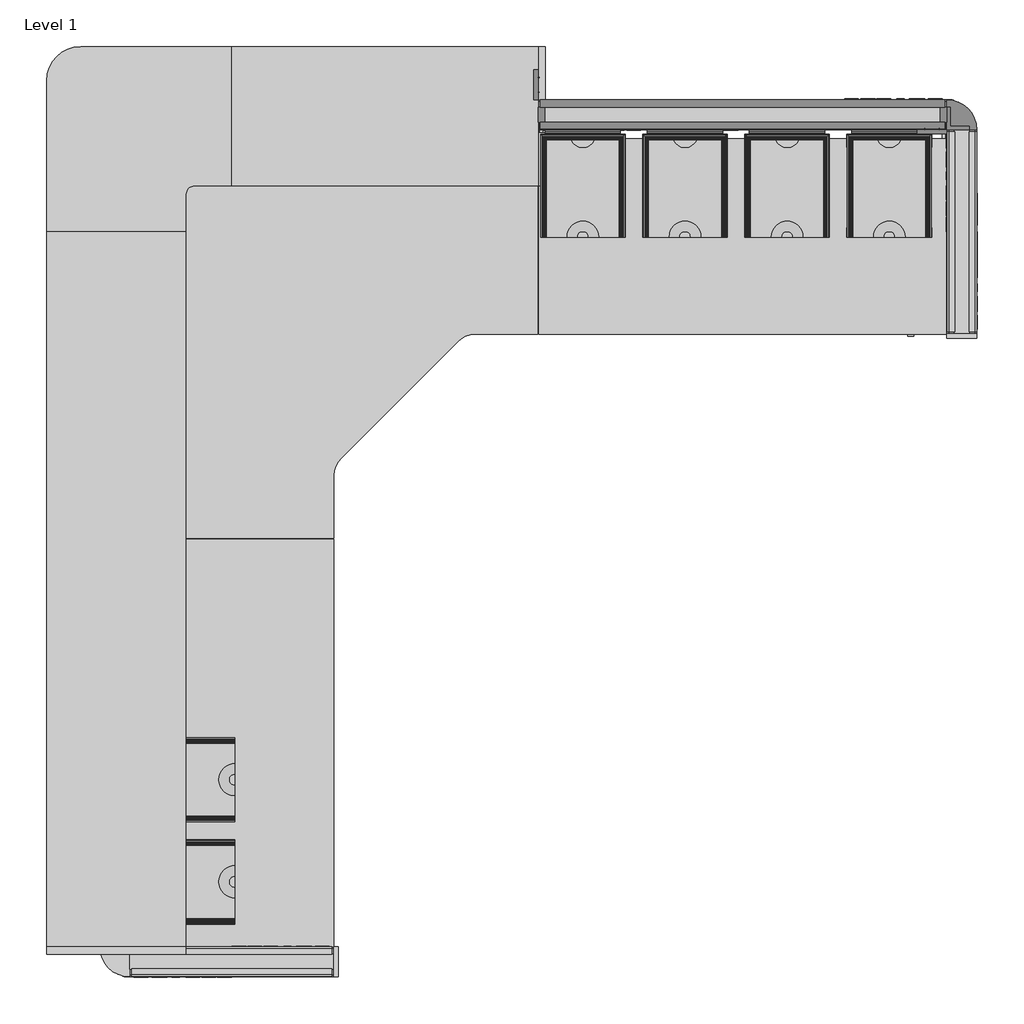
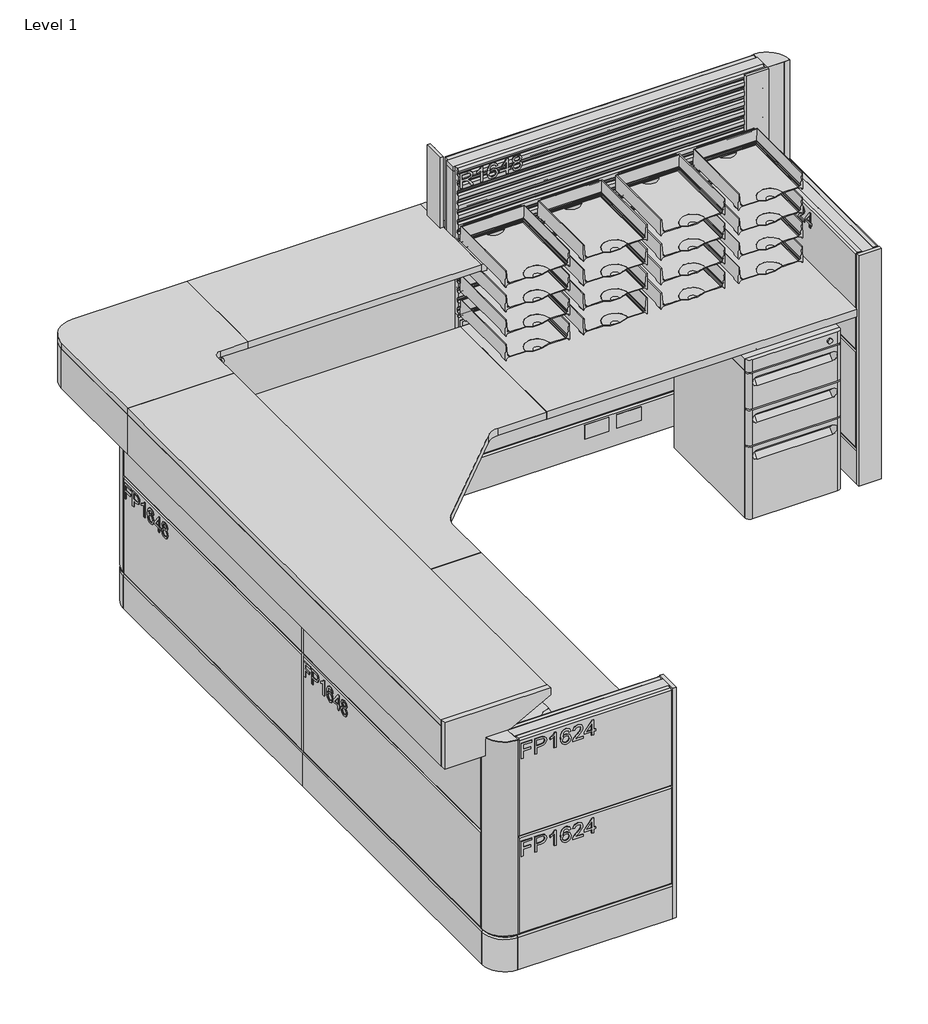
# One storey, incomplete: 82 furniture elements.
"""IFC4 building model written with IfcOpenShell, lengths in millimetres."""

from ifc_helpers import new_model, si_unit, origin, place, context, project, spatial, transform, mapped, element, save
from components import furniture_7da167ec, furniture_0245ad47, furniture_adfb5ce8, furniture_df6beef7, furniture_9d682085, furniture_7324295f, furniture_2651c101, furniture_8bbf410e, furniture_d1243616, furniture_9dcc6860, furniture_82e04d0f, furniture_e496f4a3, furniture_2b4b025d, furniture_4f5ec0d2, furniture_25a45a0c, furniture_1e165847, furniture_649fbbb6, furniture_7367badf, furniture_2b01d008, furniture_5f13d64d, furniture_d119ae5b, furniture_75c44140, furniture_a37e439a, furniture_f058e72c, furniture_24d_left_781ecdd2, furniture_24d_right_b8f5cfed, furniture_c74ffdfc, furniture_90_deg_19f469a9, furniture_90_deg_corner_ab4f0109, end_cap_54c5994d, lam_24d_48w_661e9c04, lam_24d_48w_cabdf88d, left_ebece1d7, right_d4cbb337

model = new_model("IFC4")

# Units and contexts
model_context = context("Model", 3, world=origin())
ifc_project = project(units=[si_unit("LENGTHUNIT", "METRE", prefix="MILLI")], contexts=[model_context])

# Site, building, storey
site = spatial("IfcSite", under=ifc_project)
building = spatial("IfcBuilding", under=site)
storey = spatial("IfcBuildingStorey", under=building, Name="Level 1", Elevation=0.0)

# Furniture
placement = place(None, origin())
furniture_shape = furniture_7da167ec(model_context)
element("IfcFurniture", 1, ObjectType="HermanMiller_Quadrant_G5110_B-PullFreestandingPedestal : 26-1/2\"H x 20\"D x 15\"W BBF", at=placement, inside=storey, context=model_context, shape_type="MappedRepresentation", body=[
    mapped(furniture_shape, transform((427.19498, -2212.0479, 0.0), x_axis=(0.0, 1.0, 0.0), y_axis=(-1.0, 0.0, 0.0), z_axis=(0.0, 0.0, 1.0))),
])
element("IfcFurniture", 2, ObjectType="HermanMiller_Quadrant_G5110_B-PullFreestandingPedestal : 26-1/2\"H x 20\"D x 15\"W BBF", at=placement, inside=storey, context=model_context, shape_type="MappedRepresentation", body=[
    mapped(furniture_shape, transform((2284.65888, -360.934, 0.0), x_axis=(1.0, 0.0, 0.0), y_axis=(0.0, 1.0, 0.0), z_axis=(0.0, 0.0, 1.0))),
])
furniture_2_shape = furniture_0245ad47(model_context)
element("IfcFurniture", 3, ObjectType="HermanMiller_Ethospace_E1420_FaceTile : Ptd 16\"H x 48\"W", at=placement, inside=storey, context=model_context, shape_type="MappedRepresentation", body=[
    mapped(furniture_2_shape, transform((76.2000061, -1828.8, 0.0), x_axis=(0.0, 1.0, 0.0), y_axis=(-1.0, 0.0, 0.0), z_axis=(0.0, 0.0, 1.0))),
])
element("IfcFurniture", 4, ObjectType="HermanMiller_Ethospace_E1420_FaceTile : Ptd 16\"H x 48\"W", at=placement, inside=storey, context=model_context, shape_type="MappedRepresentation", body=[
    mapped(furniture_2_shape, transform((12.6999939, -1828.8, 0.0), x_axis=(0.0, -1.0, 0.0), y_axis=(1.0, 0.0, 0.0), z_axis=(0.0, 0.0, 1.0))),
])
element("IfcFurniture", 5, ObjectType="HermanMiller_Ethospace_E1420_FaceTile : Ptd 16\"H x 48\"W", at=placement, inside=storey, context=model_context, shape_type="MappedRepresentation", body=[
    mapped(furniture_2_shape, transform((75.4049861, -609.6, 0.0), x_axis=(0.0, 1.0, 0.0), y_axis=(-1.0, 0.0, 0.0), z_axis=(0.0, 0.0, 1.0))),
])
element("IfcFurniture", 6, ObjectType="HermanMiller_Ethospace_E1420_FaceTile : Ptd 16\"H x 48\"W", at=placement, inside=storey, context=model_context, shape_type="MappedRepresentation", body=[
    mapped(furniture_2_shape, transform((12.6999939, -609.6, 0.0), x_axis=(0.0, -1.0, 0.0), y_axis=(1.0, 0.0, 0.0), z_axis=(0.0, 0.0, 1.0))),
])
element("IfcFurniture", 7, ObjectType="HermanMiller_Ethospace_E1420_FaceTile : Ptd 16\"H x 48\"W", at=placement, inside=storey, context=model_context, shape_type="MappedRepresentation", body=[
    mapped(furniture_2_shape, transform((698.5, 13.4950139, 0.0), x_axis=(1.0, 0.0, 0.0), y_axis=(0.0, 1.0, 0.0), z_axis=(0.0, 0.0, 1.0))),
])
element("IfcFurniture", 8, ObjectType="HermanMiller_Ethospace_E1420_FaceTile : Ptd 16\"H x 48\"W", at=placement, inside=storey, context=model_context, shape_type="MappedRepresentation", body=[
    mapped(furniture_2_shape, transform((698.5, 76.2000061, 0.0), x_axis=(-1.0, 0.0, 0.0), y_axis=(0.0, -1.0, 0.0), z_axis=(0.0, 0.0, 1.0))),
])
element("IfcFurniture", 9, ObjectType="HermanMiller_Ethospace_E1420_FaceTile : Ptd 16\"H x 48\"W", at=placement, inside=storey, context=model_context, shape_type="MappedRepresentation", body=[
    mapped(furniture_2_shape, transform((1917.7, 76.2000061, 0.0), x_axis=(-1.0, 0.0, 0.0), y_axis=(0.0, -1.0, 0.0), z_axis=(0.0, 0.0, 1.0))),
])
element("IfcFurniture", 10, ObjectType="HermanMiller_Ethospace_E1420_FaceTile : Ptd 16\"H x 48\"W", at=placement, inside=storey, context=model_context, shape_type="MappedRepresentation", body=[
    mapped(furniture_2_shape, transform((1917.7, 12.6999939, 0.0), x_axis=(1.0, 0.0, 0.0), y_axis=(0.0, 1.0, 0.0), z_axis=(0.0, 0.0, 1.0))),
])
furniture_3_shape = furniture_adfb5ce8(model_context)
element("IfcFurniture", 11, ObjectType="HermanMiller_Ethospace_E1420_FaceTile : Ptd 16\"H x 48\"W", at=placement, inside=storey, context=model_context, shape_type="MappedRepresentation", body=[
    mapped(furniture_3_shape, transform((75.4049861, -609.6, 0.0), x_axis=(0.0, 1.0, 0.0), y_axis=(-1.0, 0.0, 0.0), z_axis=(0.0, 0.0, 1.0))),
])
element("IfcFurniture", 12, ObjectType="HermanMiller_Ethospace_E1420_FaceTile : Ptd 16\"H x 48\"W", at=placement, inside=storey, context=model_context, shape_type="MappedRepresentation", body=[
    mapped(furniture_3_shape, transform((698.5, 13.4950139, 0.0), x_axis=(1.0, 0.0, 0.0), y_axis=(0.0, 1.0, 0.0), z_axis=(0.0, 0.0, 1.0))),
])
element("IfcFurniture", 13, ObjectType="HermanMiller_Ethospace_E1420_FaceTile : Ptd 16\"H x 48\"W", at=placement, inside=storey, context=model_context, shape_type="MappedRepresentation", body=[
    mapped(furniture_3_shape, transform((12.6999939, -1828.8, 0.0), x_axis=(0.0, -1.0, 0.0), y_axis=(1.0, 0.0, 0.0), z_axis=(0.0, 0.0, 1.0))),
])
element("IfcFurniture", 14, ObjectType="HermanMiller_Ethospace_E1420_FaceTile : Ptd 16\"H x 48\"W", at=placement, inside=storey, context=model_context, shape_type="MappedRepresentation", body=[
    mapped(furniture_3_shape, transform((12.6999939, -609.6, 0.0), x_axis=(0.0, -1.0, 0.0), y_axis=(1.0, 0.0, 0.0), z_axis=(0.0, 0.0, 1.0))),
])
element("IfcFurniture", 15, ObjectType="HermanMiller_Ethospace_E1420_FaceTile : Ptd 16\"H x 48\"W", at=placement, inside=storey, context=model_context, shape_type="MappedRepresentation", body=[
    mapped(furniture_3_shape, transform((698.5, 76.2000061, 0.0), x_axis=(-1.0, 0.0, 0.0), y_axis=(0.0, -1.0, 0.0), z_axis=(0.0, 0.0, 1.0))),
])
element("IfcFurniture", 16, ObjectType="HermanMiller_Ethospace_E1420_FaceTile : Ptd 16\"H x 48\"W", at=placement, inside=storey, context=model_context, shape_type="MappedRepresentation", body=[
    mapped(furniture_3_shape, transform((1917.7, 76.2000061, 0.0), x_axis=(-1.0, 0.0, 0.0), y_axis=(0.0, -1.0, 0.0), z_axis=(0.0, 0.0, 1.0))),
])
furniture_4_shape = furniture_df6beef7(model_context)
element("IfcFurniture", 17, ObjectType="HermanMiller_Ethospace_E2827_CounterTopSupport : 48\"W W/Light", at=placement, inside=storey, context=model_context, shape_type="MappedRepresentation", body=[
    mapped(furniture_4_shape, transform((57.14492, -1828.8, 0.0), x_axis=(0.0, 1.0, 0.0), y_axis=(-1.0, 0.0, 0.0), z_axis=(0.0, 0.0, 1.0))),
])
element("IfcFurniture", 18, ObjectType="HermanMiller_Ethospace_E2827_CounterTopSupport : 48\"W W/Light", at=placement, inside=storey, context=model_context, shape_type="MappedRepresentation", body=[
    mapped(furniture_4_shape, transform((698.5, 31.75254, 0.0), x_axis=(1.0, 0.0, 0.0), y_axis=(0.0, 1.0, 0.0), z_axis=(0.0, 0.0, 1.0))),
])
element("IfcFurniture", 19, ObjectType="HermanMiller_Ethospace_E2827_CounterTopSupport : 48\"W W/Light", at=placement, inside=storey, context=model_context, shape_type="MappedRepresentation", body=[
    mapped(furniture_4_shape, transform((57.14492, -609.6, 0.0), x_axis=(0.0, 1.0, 0.0), y_axis=(-1.0, 0.0, 0.0), z_axis=(0.0, 0.0, 1.0))),
])
furniture_5_shape = furniture_9d682085(model_context)
element("IfcFurniture", 20, ObjectType="HermanMiller_Ethospace_E1251_FinishedEndChangeOfHeight : Std Ptd 12\"H", at=placement, inside=storey, context=model_context, shape_type="MappedRepresentation", body=[
    mapped(furniture_5_shape, transform((1302.7293982, 127.5537944, 0.0), x_axis=(-1.0, 0.0, 0.0), y_axis=(0.0, -1.0, 0.0), z_axis=(0.0, 0.0, 1.0))),
])
furniture_6_shape = furniture_7324295f(model_context)
element("IfcFurniture", 21, ObjectType="HermanMiller_Ethospace_E2830_SqEdgeCounterTop : 7-1/2\"H x 16-3/8\"D x 36\"W", at=placement, inside=storey, context=model_context, shape_type="MappedRepresentation", body=[
    mapped(furniture_6_shape, transform((850.9, 39.69004, 0.0), x_axis=(1.0, 0.0, 0.0), y_axis=(0.0, 1.0, 0.0), z_axis=(0.0, 0.0, 1.0))),
])
furniture_7_shape = furniture_2651c101(model_context)
element("IfcFurniture", 22, ObjectType="HermanMiller_Ethospace_E2830_SqEdgeCounterTop : 7-1/2\"H x 16-3/8\"D x 84\"W", at=placement, inside=storey, context=model_context, shape_type="MappedRepresentation", body=[
    mapped(furniture_7_shape, transform((49.20742, -1371.6, 0.0), x_axis=(0.0, 1.0, 0.0), y_axis=(-1.0, 0.0, 0.0), z_axis=(0.0, 0.0, 1.0))),
])
furniture_8_shape = furniture_8bbf410e(model_context)
element("IfcFurniture", 23, ObjectType="HermanMiller_Ethospace_E1250_FinishedEnd : Std Ptd 38\"H", at=placement, inside=storey, context=model_context, shape_type="MappedRepresentation", body=[
    mapped(furniture_8_shape, transform((703.8706018, -2477.0537944, 0.0), x_axis=(1.0, 0.0, 0.0), y_axis=(0.0, 1.0, 0.0), z_axis=(0.0, 0.0, 1.0))),
])
element("IfcFurniture", 24, ObjectType="HermanMiller_Ethospace_E1250_FinishedEnd : Std Ptd 38\"H", at=placement, inside=storey, context=model_context, shape_type="MappedRepresentation", body=[
    mapped(furniture_8_shape, transform((2577.5462056, -614.9706018, 0.0), x_axis=(0.0, -1.0, 0.0), y_axis=(1.0, 0.0, 0.0), z_axis=(0.0, 0.0, 1.0))),
])
furniture_9_shape = furniture_d1243616(model_context)
element("IfcFurniture", 25, ObjectType="HermanMiller_Ethospace_E1420_FaceTile : Ptd 16\"H x 24\"W", at=placement, inside=storey, context=model_context, shape_type="MappedRepresentation", body=[
    mapped(furniture_9_shape, transform((393.7, -2513.8049861, 0.0), x_axis=(1.0, 0.0, 0.0), y_axis=(0.0, 1.0, 0.0), z_axis=(0.0, 0.0, 1.0))),
])
element("IfcFurniture", 26, ObjectType="HermanMiller_Ethospace_E1420_FaceTile : Ptd 16\"H x 24\"W", at=placement, inside=storey, context=model_context, shape_type="MappedRepresentation", body=[
    mapped(furniture_9_shape, transform((393.7, -2451.0999939, 0.0), x_axis=(-1.0, 0.0, 0.0), y_axis=(0.0, -1.0, 0.0), z_axis=(0.0, 0.0, 1.0))),
])
element("IfcFurniture", 27, ObjectType="HermanMiller_Ethospace_E1420_FaceTile : Ptd 16\"H x 24\"W", at=placement, inside=storey, context=model_context, shape_type="MappedRepresentation", body=[
    mapped(furniture_9_shape, transform((2540.7924739, -304.8, 0.0), x_axis=(0.0, -1.0, 0.0), y_axis=(1.0, 0.0, 0.0), z_axis=(0.0, 0.0, 1.0))),
])
element("IfcFurniture", 28, ObjectType="HermanMiller_Ethospace_E1420_FaceTile : Ptd 16\"H x 24\"W", at=placement, inside=storey, context=model_context, shape_type="MappedRepresentation", body=[
    mapped(furniture_9_shape, transform((2603.5000061, -304.8, 0.0), x_axis=(0.0, 1.0, 0.0), y_axis=(-1.0, 0.0, 0.0), z_axis=(0.0, 0.0, 1.0))),
])
furniture_10_shape = furniture_9dcc6860(model_context)
element("IfcFurniture", 29, ObjectType="HermanMiller_Ethospace_E1420_FaceTile : Ptd 16\"H x 24\"W", at=placement, inside=storey, context=model_context, shape_type="MappedRepresentation", body=[
    mapped(furniture_10_shape, transform((393.7, -2513.8049861, 0.0), x_axis=(1.0, 0.0, 0.0), y_axis=(0.0, 1.0, 0.0), z_axis=(0.0, 0.0, 1.0))),
])
element("IfcFurniture", 30, ObjectType="HermanMiller_Ethospace_E1420_FaceTile : Ptd 16\"H x 24\"W", at=placement, inside=storey, context=model_context, shape_type="MappedRepresentation", body=[
    mapped(furniture_10_shape, transform((393.7, -2451.0999939, 0.0), x_axis=(-1.0, 0.0, 0.0), y_axis=(0.0, -1.0, 0.0), z_axis=(0.0, 0.0, 1.0))),
])
element("IfcFurniture", 31, ObjectType="HermanMiller_Ethospace_E1420_FaceTile : Ptd 16\"H x 24\"W", at=placement, inside=storey, context=model_context, shape_type="MappedRepresentation", body=[
    mapped(furniture_10_shape, transform((2540.7924739, -304.8, 0.0), x_axis=(0.0, -1.0, 0.0), y_axis=(1.0, 0.0, 0.0), z_axis=(0.0, 0.0, 1.0))),
])
element("IfcFurniture", 32, ObjectType="HermanMiller_Ethospace_E1420_FaceTile : Ptd 16\"H x 24\"W", at=placement, inside=storey, context=model_context, shape_type="MappedRepresentation", body=[
    mapped(furniture_10_shape, transform((2603.5000061, -304.8, 0.0), x_axis=(0.0, 1.0, 0.0), y_axis=(-1.0, 0.0, 0.0), z_axis=(0.0, 0.0, 1.0))),
])
furniture_11_shape = furniture_82e04d0f(model_context)
element("IfcFurniture", 33, ObjectType="HermanMiller_Ethospace_E1109_Frame : 38\"H x 24\"W-H", at=placement, inside=storey, context=model_context, shape_type="MappedRepresentation", body=[
    mapped(furniture_11_shape, transform((393.7, -2482.85, 0.0), x_axis=(-1.0, 0.0, 0.0), y_axis=(0.0, -1.0, 0.0), z_axis=(0.0, 0.0, 1.0))),
])
element("IfcFurniture", 34, ObjectType="HermanMiller_Ethospace_E1109_Frame : 38\"H x 24\"W-H", at=placement, inside=storey, context=model_context, shape_type="MappedRepresentation", body=[
    mapped(furniture_11_shape, transform((2571.75, -304.8, 0.0), x_axis=(0.0, 1.0, 0.0), y_axis=(-1.0, 0.0, 0.0), z_axis=(0.0, 0.0, 1.0))),
])
furniture_12_shape = furniture_e496f4a3(model_context)
element("IfcFurniture", 35, ObjectType="HermanMiller_Ethospace_E1220_90DegreeConnector : Vnyl 38\"H 2-Way Rds-N", at=placement, inside=storey, context=model_context, shape_type="MappedRepresentation", body=[
    mapped(furniture_12_shape, transform((69.8449219, -2474.6847899, 0.0), x_axis=(-1.0, 0.0, 0.0), y_axis=(0.0, -1.0, 0.0), z_axis=(0.0, 0.0, 1.0))),
])
element("IfcFurniture", 36, ObjectType="HermanMiller_Ethospace_E1220_90DegreeConnector : Vnyl 38\"H 2-Way Rds-N", at=placement, inside=storey, context=model_context, shape_type="MappedRepresentation", body=[
    mapped(furniture_12_shape, transform((52.6152101, 19.0499981, 0.0), x_axis=(0.0, 1.0, 0.0), y_axis=(-1.0, 0.0, 0.0), z_axis=(0.0, 0.0, 1.0))),
])
furniture_13_shape = furniture_2b4b025d(model_context)
element("IfcFurniture", 37, ObjectType="HermanMiller_Ethospace_E1109_Frame : 38\"H x 48\"W-H", at=placement, inside=storey, context=model_context, shape_type="MappedRepresentation", body=[
    mapped(furniture_13_shape, transform((44.44492, -609.6, 0.0), x_axis=(0.0, 1.0, 0.0), y_axis=(-1.0, 0.0, 0.0), z_axis=(0.0, 0.0, 1.0))),
])
element("IfcFurniture", 38, ObjectType="HermanMiller_Ethospace_E1109_Frame : 38\"H x 48\"W-H", at=placement, inside=storey, context=model_context, shape_type="MappedRepresentation", body=[
    mapped(furniture_13_shape, transform((44.44492, -1828.8, 0.0), x_axis=(0.0, 1.0, 0.0), y_axis=(-1.0, 0.0, 0.0), z_axis=(0.0, 0.0, 1.0))),
])
element("IfcFurniture", 39, ObjectType="HermanMiller_Ethospace_E1109_Frame : 38\"H x 48\"W-H", at=placement, inside=storey, context=model_context, shape_type="MappedRepresentation", body=[
    mapped(furniture_13_shape, transform((698.5, 44.45254, 0.0), x_axis=(1.0, 0.0, 0.0), y_axis=(0.0, 1.0, 0.0), z_axis=(0.0, 0.0, 1.0))),
])
furniture_14_shape = furniture_4f5ec0d2(model_context)
element("IfcFurniture", 40, ObjectType="HermanMiller_Ethospace_E1420_FaceTile : Ptd 08\"H x 48\"W", at=placement, inside=storey, context=model_context, shape_type="MappedRepresentation", body=[
    mapped(furniture_14_shape, transform((76.2000061, -1828.8, 0.0), x_axis=(0.0, 1.0, 0.0), y_axis=(-1.0, 0.0, 0.0), z_axis=(0.0, 0.0, 1.0))),
])
element("IfcFurniture", 41, ObjectType="HermanMiller_Ethospace_E1420_FaceTile : Ptd 08\"H x 48\"W", at=placement, inside=storey, context=model_context, shape_type="MappedRepresentation", body=[
    mapped(furniture_14_shape, transform((1917.7, 12.6999939, 0.0), x_axis=(1.0, 0.0, 0.0), y_axis=(0.0, 1.0, 0.0), z_axis=(0.0, 0.0, 1.0))),
])
furniture_15_shape = furniture_25a45a0c(model_context)
element("IfcFurniture", 42, ObjectType="HermanMiller_Ethospace_E1425_RailTile : 08\"H x 48\"W", at=placement, inside=storey, context=model_context, shape_type="MappedRepresentation", body=[
    mapped(furniture_15_shape, transform((66.675, -1828.8, 0.0), x_axis=(0.0, 1.0, 0.0), y_axis=(-1.0, 0.0, 0.0), z_axis=(0.0, 0.0, 1.0))),
])
element("IfcFurniture", 43, ObjectType="HermanMiller_Ethospace_E1425_RailTile : 08\"H x 48\"W", at=placement, inside=storey, context=model_context, shape_type="MappedRepresentation", body=[
    mapped(furniture_15_shape, transform((1917.7, 22.225, 0.0), x_axis=(1.0, 0.0, 0.0), y_axis=(0.0, 1.0, 0.0), z_axis=(0.0, 0.0, 1.0))),
])
furniture_16_shape = furniture_1e165847(model_context)
element("IfcFurniture", 44, ObjectType="HermanMiller_Ethospace_E1420_FaceTile : Ptd 16\"H x 48\"W", at=placement, inside=storey, context=model_context, shape_type="MappedRepresentation", body=[
    mapped(furniture_16_shape, transform((1917.7, 76.2000061, 0.0), x_axis=(-1.0, 0.0, 0.0), y_axis=(0.0, -1.0, 0.0), z_axis=(0.0, 0.0, 1.0))),
])
furniture_17_shape = furniture_649fbbb6(model_context)
element("IfcFurniture", 45, ObjectType="HermanMiller_Ethospace_E1220_90DegreeConnector : Vnyl 54\"H 2-Way Rds-N", at=placement, inside=storey, context=model_context, shape_type="MappedRepresentation", body=[
    mapped(furniture_17_shape, transform((2546.3499981, 36.2847899, 0.0), x_axis=(1.0, 0.0, 0.0), y_axis=(0.0, 1.0, 0.0), z_axis=(0.0, 0.0, 1.0))),
])
furniture_18_shape = furniture_7367badf(model_context)
element("IfcFurniture", 46, ObjectType="HermanMiller_Ethospace_E1251_FinishedEndChangeOfHeight : Std Ptd 16\"H", at=placement, inside=storey, context=model_context, shape_type="MappedRepresentation", body=[
    mapped(furniture_18_shape, transform((2488.6436656, -5.3706018, 0.0), x_axis=(0.0, -1.0, 0.0), y_axis=(1.0, 0.0, 0.0), z_axis=(0.0, 0.0, 1.0))),
])
furniture_19_shape = furniture_2b01d008(model_context)
element("IfcFurniture", 47, ObjectType="HermanMiller_Ethospace_E1425_RailTile : 16\"H x 48\"W", at=placement, inside=storey, context=model_context, shape_type="MappedRepresentation", body=[
    mapped(furniture_19_shape, transform((1917.7, 22.225, 0.0), x_axis=(1.0, 0.0, 0.0), y_axis=(0.0, 1.0, 0.0), z_axis=(0.0, 0.0, 1.0))),
])
furniture_20_shape = furniture_5f13d64d(model_context)
element("IfcFurniture", 48, ObjectType="HermanMiller_Ethospace_E1109_Frame : 54\"H x 48\"W-H", at=placement, inside=storey, context=model_context, shape_type="MappedRepresentation", body=[
    mapped(furniture_20_shape, transform((1917.7, 44.45, 0.0), x_axis=(1.0, 0.0, 0.0), y_axis=(0.0, 1.0, 0.0), z_axis=(0.0, 0.0, 1.0))),
])
furniture_21_shape = furniture_d119ae5b(model_context)
element("IfcFurniture", 49, ObjectType="HermanMiller_ThrivePortfolio_Y7216_PaperTray : 3\"H x 12\"D x 10\"W", at=placement, inside=storey, context=model_context, shape_type="MappedRepresentation", body=[
    mapped(furniture_21_shape, transform((248.95048, -1939.671, 0.0), x_axis=(0.0, 1.0, 0.0), y_axis=(-1.0, 0.0, 0.0), z_axis=(0.0, 0.0, 1.0))),
])
element("IfcFurniture", 50, ObjectType="HermanMiller_ThrivePortfolio_Y7216_PaperTray : 3\"H x 12\"D x 10\"W", at=placement, inside=storey, context=model_context, shape_type="MappedRepresentation", body=[
    mapped(furniture_21_shape, transform((248.95048, -2244.471, 0.0), x_axis=(0.0, 1.0, 0.0), y_axis=(-1.0, 0.0, 0.0), z_axis=(0.0, 0.0, 1.0))),
])
element("IfcFurniture", 51, ObjectType="HermanMiller_ThrivePortfolio_Y7216_PaperTray : 3\"H x 12\"D x 10\"W", at=placement, inside=storey, context=model_context, shape_type="MappedRepresentation", body=[
    mapped(furniture_21_shape, transform((2050.64868, -166.99992, 0.0), x_axis=(1.0, 0.0, 0.0), y_axis=(0.0, 1.0, 0.0), z_axis=(0.0, 0.0, 1.0))),
])
element("IfcFurniture", 52, ObjectType="HermanMiller_ThrivePortfolio_Y7216_PaperTray : 3\"H x 12\"D x 10\"W", at=placement, inside=storey, context=model_context, shape_type="MappedRepresentation", body=[
    mapped(furniture_21_shape, transform((2355.44868, -166.99992, 0.0), x_axis=(1.0, 0.0, 0.0), y_axis=(0.0, 1.0, 0.0), z_axis=(0.0, 0.0, 1.0))),
])
element("IfcFurniture", 53, ObjectType="HermanMiller_ThrivePortfolio_Y7216_PaperTray : 3\"H x 12\"D x 10\"W", at=placement, inside=storey, context=model_context, shape_type="MappedRepresentation", body=[
    mapped(furniture_21_shape, transform((1441.04868, -166.99992, 0.0), x_axis=(1.0, 0.0, 0.0), y_axis=(0.0, 1.0, 0.0), z_axis=(0.0, 0.0, 1.0))),
])
element("IfcFurniture", 54, ObjectType="HermanMiller_ThrivePortfolio_Y7216_PaperTray : 3\"H x 12\"D x 10\"W", at=placement, inside=storey, context=model_context, shape_type="MappedRepresentation", body=[
    mapped(furniture_21_shape, transform((1745.84868, -166.99992, 0.0), x_axis=(1.0, 0.0, 0.0), y_axis=(0.0, 1.0, 0.0), z_axis=(0.0, 0.0, 1.0))),
])
furniture_22_shape = furniture_75c44140(model_context)
element("IfcFurniture", 55, ObjectType="HermanMiller_ThrivePortfolio_Y7216_PaperTray : 3\"H x 12\"D x 10\"W", at=placement, inside=storey, context=model_context, shape_type="MappedRepresentation", body=[
    mapped(furniture_22_shape, transform((2050.64868, -166.99992, 0.0), x_axis=(1.0, 0.0, 0.0), y_axis=(0.0, 1.0, 0.0), z_axis=(0.0, 0.0, 1.0))),
])
element("IfcFurniture", 56, ObjectType="HermanMiller_ThrivePortfolio_Y7216_PaperTray : 3\"H x 12\"D x 10\"W", at=placement, inside=storey, context=model_context, shape_type="MappedRepresentation", body=[
    mapped(furniture_22_shape, transform((2355.44868, -166.99992, 0.0), x_axis=(1.0, 0.0, 0.0), y_axis=(0.0, 1.0, 0.0), z_axis=(0.0, 0.0, 1.0))),
])
element("IfcFurniture", 57, ObjectType="HermanMiller_ThrivePortfolio_Y7216_PaperTray : 3\"H x 12\"D x 10\"W", at=placement, inside=storey, context=model_context, shape_type="MappedRepresentation", body=[
    mapped(furniture_22_shape, transform((1441.04868, -166.99992, 0.0), x_axis=(1.0, 0.0, 0.0), y_axis=(0.0, 1.0, 0.0), z_axis=(0.0, 0.0, 1.0))),
])
element("IfcFurniture", 58, ObjectType="HermanMiller_ThrivePortfolio_Y7216_PaperTray : 3\"H x 12\"D x 10\"W", at=placement, inside=storey, context=model_context, shape_type="MappedRepresentation", body=[
    mapped(furniture_22_shape, transform((1745.84868, -166.99992, 0.0), x_axis=(1.0, 0.0, 0.0), y_axis=(0.0, 1.0, 0.0), z_axis=(0.0, 0.0, 1.0))),
])
furniture_23_shape = furniture_a37e439a(model_context)
element("IfcFurniture", 59, ObjectType="HermanMiller_ThrivePortfolio_Y7216_PaperTray : 3\"H x 12\"D x 10\"W", at=placement, inside=storey, context=model_context, shape_type="MappedRepresentation", body=[
    mapped(furniture_23_shape, transform((2050.64868, -166.99992, 0.0), x_axis=(1.0, 0.0, 0.0), y_axis=(0.0, 1.0, 0.0), z_axis=(0.0, 0.0, 1.0))),
])
element("IfcFurniture", 60, ObjectType="HermanMiller_ThrivePortfolio_Y7216_PaperTray : 3\"H x 12\"D x 10\"W", at=placement, inside=storey, context=model_context, shape_type="MappedRepresentation", body=[
    mapped(furniture_23_shape, transform((2355.44868, -166.99992, 0.0), x_axis=(1.0, 0.0, 0.0), y_axis=(0.0, 1.0, 0.0), z_axis=(0.0, 0.0, 1.0))),
])
element("IfcFurniture", 61, ObjectType="HermanMiller_ThrivePortfolio_Y7216_PaperTray : 3\"H x 12\"D x 10\"W", at=placement, inside=storey, context=model_context, shape_type="MappedRepresentation", body=[
    mapped(furniture_23_shape, transform((1441.04868, -166.99992, 0.0), x_axis=(1.0, 0.0, 0.0), y_axis=(0.0, 1.0, 0.0), z_axis=(0.0, 0.0, 1.0))),
])
element("IfcFurniture", 62, ObjectType="HermanMiller_ThrivePortfolio_Y7216_PaperTray : 3\"H x 12\"D x 10\"W", at=placement, inside=storey, context=model_context, shape_type="MappedRepresentation", body=[
    mapped(furniture_23_shape, transform((1745.84868, -166.99992, 0.0), x_axis=(1.0, 0.0, 0.0), y_axis=(0.0, 1.0, 0.0), z_axis=(0.0, 0.0, 1.0))),
])
furniture_24_shape = furniture_f058e72c(model_context)
element("IfcFurniture", 63, ObjectType="HermanMiller_ThrivePortfolio_Y7216_PaperTray : 3\"H x 12\"D x 10\"W", at=placement, inside=storey, context=model_context, shape_type="MappedRepresentation", body=[
    mapped(furniture_24_shape, transform((2050.64868, -166.99992, 0.0), x_axis=(1.0, 0.0, 0.0), y_axis=(0.0, 1.0, 0.0), z_axis=(0.0, 0.0, 1.0))),
])
element("IfcFurniture", 64, ObjectType="HermanMiller_ThrivePortfolio_Y7216_PaperTray : 3\"H x 12\"D x 10\"W", at=placement, inside=storey, context=model_context, shape_type="MappedRepresentation", body=[
    mapped(furniture_24_shape, transform((2355.44868, -166.99992, 0.0), x_axis=(1.0, 0.0, 0.0), y_axis=(0.0, 1.0, 0.0), z_axis=(0.0, 0.0, 1.0))),
])
element("IfcFurniture", 65, ObjectType="HermanMiller_ThrivePortfolio_Y7216_PaperTray : 3\"H x 12\"D x 10\"W", at=placement, inside=storey, context=model_context, shape_type="MappedRepresentation", body=[
    mapped(furniture_24_shape, transform((1441.04868, -166.99992, 0.0), x_axis=(1.0, 0.0, 0.0), y_axis=(0.0, 1.0, 0.0), z_axis=(0.0, 0.0, 1.0))),
])
element("IfcFurniture", 66, ObjectType="HermanMiller_ThrivePortfolio_Y7216_PaperTray : 3\"H x 12\"D x 10\"W", at=placement, inside=storey, context=model_context, shape_type="MappedRepresentation", body=[
    mapped(furniture_24_shape, transform((1745.84868, -166.99992, 0.0), x_axis=(1.0, 0.0, 0.0), y_axis=(0.0, 1.0, 0.0), z_axis=(0.0, 0.0, 1.0))),
])
furniture_24d_left_shape = furniture_24d_left_781ecdd2(model_context)
element("IfcFurniture", 67, ObjectType="HermanMiller_Ethospace_E2393_WorkSurfaceSupport : 24D Left", at=placement, inside=storey, context=model_context, shape_type="MappedRepresentation", body=[
    mapped(furniture_24d_left_shape, transform((320.675, -1219.2635, 0.0), x_axis=(0.0, 1.0, 0.0), y_axis=(-1.0, 0.0, 0.0), z_axis=(0.0, 0.0, 1.0))),
])
element("IfcFurniture", 68, ObjectType="HermanMiller_Ethospace_E2393_WorkSurfaceSupport : 24D Left", at=placement, inside=storey, context=model_context, shape_type="MappedRepresentation", body=[
    mapped(furniture_24d_left_shape, transform((320.675, -2438.4635, 0.0), x_axis=(0.0, 1.0, 0.0), y_axis=(-1.0, 0.0, 0.0), z_axis=(0.0, 0.0, 1.0))),
])
element("IfcFurniture", 69, ObjectType="HermanMiller_Ethospace_E2393_WorkSurfaceSupport : 24D Left", at=placement, inside=storey, context=model_context, shape_type="MappedRepresentation", body=[
    mapped(furniture_24d_left_shape, transform((1309.624, -233.3625, 0.0), x_axis=(1.0, 0.0, 0.0), y_axis=(0.0, 1.0, 0.0), z_axis=(0.0, 0.0, 1.0))),
])
furniture_24d_right_shape = furniture_24d_right_b8f5cfed(model_context)
element("IfcFurniture", 70, ObjectType="HermanMiller_Ethospace_E2393_WorkSurfaceSupport : 24D Right", at=placement, inside=storey, context=model_context, shape_type="MappedRepresentation", body=[
    mapped(furniture_24d_right_shape, transform((1306.576, -233.3625, 0.0), x_axis=(1.0, 0.0, 0.0), y_axis=(0.0, 1.0, 0.0), z_axis=(0.0, 0.0, 1.0))),
])
element("IfcFurniture", 71, ObjectType="HermanMiller_Ethospace_E2393_WorkSurfaceSupport : 24D Right", at=placement, inside=storey, context=model_context, shape_type="MappedRepresentation", body=[
    mapped(furniture_24d_right_shape, transform((320.675, -1222.3115, 0.0), x_axis=(0.0, 1.0, 0.0), y_axis=(-1.0, 0.0, 0.0), z_axis=(0.0, 0.0, 1.0))),
])
element("IfcFurniture", 72, ObjectType="HermanMiller_Ethospace_E2393_WorkSurfaceSupport : 24D Right", at=placement, inside=storey, context=model_context, shape_type="MappedRepresentation", body=[
    mapped(furniture_24d_right_shape, transform((2525.776, -233.3625, 0.0), x_axis=(1.0, 0.0, 0.0), y_axis=(0.0, 1.0, 0.0), z_axis=(0.0, 0.0, 1.0))),
])
furniture_25_shape = furniture_c74ffdfc(model_context)
element("IfcFurniture", 73, ObjectType="HermanMiller_Ethospace_E2828_CounterTopSupportFiller : 9\"", at=placement, inside=storey, context=model_context, shape_type="MappedRepresentation", body=[
    mapped(furniture_25_shape, transform((57.14492, -1174.75, 0.0), x_axis=(0.0, 1.0, 0.0), y_axis=(-1.0, 0.0, 0.0), z_axis=(0.0, 0.0, 1.0))),
])
furniture_90_deg_shape = furniture_90_deg_19f469a9(model_context)
element("IfcFurniture", 74, ObjectType="HermanMiller_Ethospace_E2828_CounterTopSupportFiller : 90 Deg", at=placement, inside=storey, context=model_context, shape_type="MappedRepresentation", body=[
    mapped(furniture_90_deg_shape, transform((57.15, 44.45, 0.0), x_axis=(0.0, 1.0, 0.0), y_axis=(-1.0, 0.0, 0.0), z_axis=(0.0, 0.0, 1.0))),
])
furniture_90_deg_corner_shape = furniture_90_deg_corner_ab4f0109(model_context)
element("IfcFurniture", 75, ObjectType="HermanMiller_Ethospace_E2831_SqEdgeCounterTopCorner : 90 Deg Corner", at=placement, inside=storey, context=model_context, shape_type="MappedRepresentation", body=[
    mapped(furniture_90_deg_corner_shape, transform((62.524993, 44.45, 0.0), x_axis=(0.0, 1.0, 0.0), y_axis=(-1.0, 0.0, 0.0), z_axis=(0.0, 0.0, 1.0))),
])
end_cap_shape = end_cap_54c5994d(model_context)
element("IfcFurniture", 76, ObjectType="HermanMiller_Ethospace_E2829_CounterTopSupportEndCap : End Cap", at=placement, inside=storey, context=model_context, shape_type="MappedRepresentation", body=[
    mapped(end_cap_shape, transform((1250.95, 31.75254, 0.0), x_axis=(1.0, 0.0, 0.0), y_axis=(0.0, 1.0, 0.0), z_axis=(0.0, 0.0, 1.0))),
])
element("IfcFurniture", 77, ObjectType="HermanMiller_Ethospace_E2829_CounterTopSupportEndCap : End Cap", at=placement, inside=storey, context=model_context, shape_type="MappedRepresentation", body=[
    mapped(end_cap_shape, transform((57.14492, -2381.25, 0.0), x_axis=(0.0, 1.0, 0.0), y_axis=(-1.0, 0.0, 0.0), z_axis=(0.0, 0.0, 1.0))),
])
lam_24d_48w_shape = lam_24d_48w_661e9c04(model_context)
element("IfcFurniture", 78, ObjectType="HermanMiller_Ethospace_EWS20_F_Sq-EdgeCornerSurface_FrameAttached : Lam 24D 48W", at=placement, inside=storey, context=model_context, shape_type="MappedRepresentation", body=[
    mapped(lam_24d_48w_shape, transform((876.3, -811.2125, 0.0), x_axis=(1.0, 0.0, 0.0), y_axis=(0.0, 1.0, 0.0), z_axis=(0.0, 0.0, 1.0))),
])
lam_24d_48w_2_shape = lam_24d_48w_cabdf88d(model_context)
element("IfcFurniture", 79, ObjectType="HermanMiller_Ethospace_EWS10_F_Sq-EdgeRectangularSurface_FrameAttached : Lam 24D 48W", at=placement, inside=storey, context=model_context, shape_type="MappedRepresentation", body=[
    mapped(lam_24d_48w_2_shape, transform((873.1914812, -1975.8390996, 0.0), x_axis=(0.0, 1.0, 0.0), y_axis=(-1.0, 0.0, 0.0), z_axis=(0.0, 0.0, 1.0))),
])
element("IfcFurniture", 80, ObjectType="HermanMiller_Ethospace_EWS10_F_Sq-EdgeRectangularSurface_FrameAttached : Lam 24D 48W", at=placement, inside=storey, context=model_context, shape_type="MappedRepresentation", body=[
    mapped(lam_24d_48w_2_shape, transform((1772.2484004, -785.8789812, 0.0), x_axis=(1.0, 0.0, 0.0), y_axis=(0.0, 1.0, 0.0), z_axis=(0.0, 0.0, 1.0))),
])
left_shape = left_ebece1d7(model_context)
element("IfcFurniture", 81, ObjectType="HermanMiller_Ethospace_E2833_SqEdgeCounterTopEndCap : Left", at=placement, inside=storey, context=model_context, shape_type="MappedRepresentation", body=[
    mapped(left_shape, transform((49.2252, -2449.2148438, 0.0), x_axis=(0.0, 1.0, 0.0), y_axis=(-1.0, 0.0, 0.0), z_axis=(0.0, 0.0, 1.0))),
])
right_shape = right_d4cbb337(model_context)
element("IfcFurniture", 82, ObjectType="HermanMiller_Ethospace_E2834_SqEdgeCounterTopEndCapChangeOfHeight : Right", at=placement, inside=storey, context=model_context, shape_type="MappedRepresentation", body=[
    mapped(right_shape, transform((1318.9148437, 39.69004, 0.0), x_axis=(1.0, 0.0, 0.0), y_axis=(0.0, 1.0, 0.0), z_axis=(0.0, 0.0, 1.0))),
])

save(model, "model.ifc")
